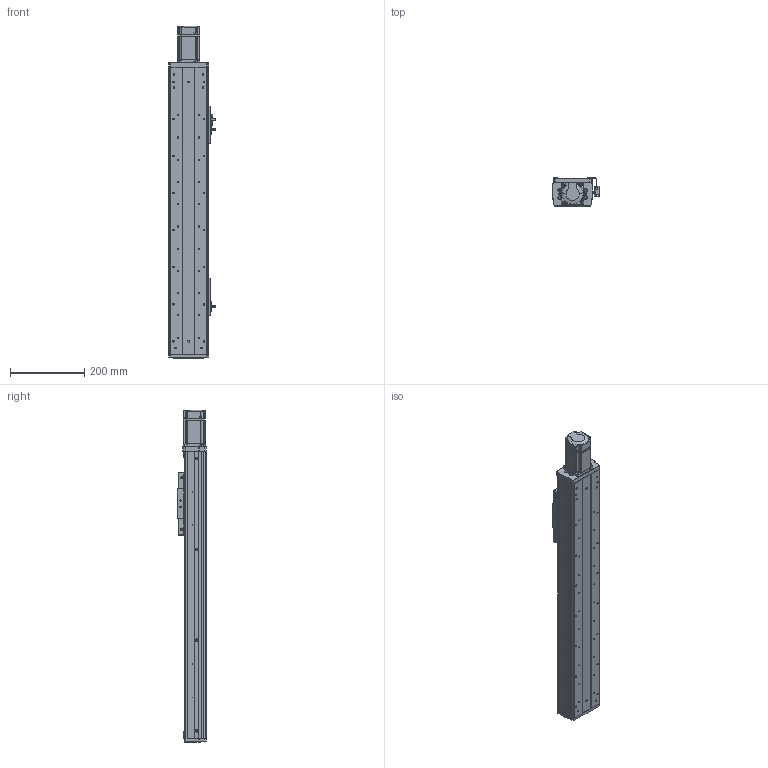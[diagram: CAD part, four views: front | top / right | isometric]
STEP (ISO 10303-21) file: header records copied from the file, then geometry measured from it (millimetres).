
FILE_DESCRIPTION (( 'STEP AP203' ), '1' );
FILE_NAME ('RY100FS-300-MK(15双轨).SLDASM_500.step', '2021-03-02T05:50:48', ( '盈信电脑' ), ( '东莞市道滘镇水果街19号' ), 'SwSTEP 2.0', 'SolidWorks 2012', '' );
FILE_SCHEMA (( 'CONFIG_CONTROL_DESIGN' ));
Length unit declared in the file: millimetre
Products named in the file (20): 滅袉蝶14-24; 滅袉蝶14-35; RY100FS-300-MK(15邧寢).SLDASM_500; 覜茼ん672; RY100FS-双轨螺母座(16丝杆）; RY100F-詩湍揤踡輸; RY100FS-15絳寢萇儂假蚾啣(200W PCD70 M4); RY100F-綴裔啣; 侂狟200W萇儂; RY80俋离覜茼え; 672嫖萇羲壽假蚾釱; 1; RY100F-詩湍幗謫粣; RY100F-詩湍揤踡謫; RY100FS-双轨铝滑块(上板）; RY100F-滅鳥裔啣; RY100FS-300-MK15邧寢祥凄詩湍_500; 棠沺沭; RY100FS-300-MK15絳寢倰第奻裔啣_500; RY100FS-300-MK15絳寢倰第菁釱_500
Assembly tree (27 placements, depth 3):
  RY100FS-300-MK(15邧寢).SLDASM_500
    RY100FS-300-MK15絳寢倰第菁釱_500
    RY100FS-300-MK15絳寢倰第奻裔啣_500  x2
    RY100FS-300-MK15邧寢祥凄詩湍_500
    RY100FS-双轨铝滑块(上板）
    RY100F-滅鳥裔啣
    棠沺沭  x2
    RY100F-詩湍幗謫粣
    RY100F-詩湍揤踡謫  x2
    侂狟200W萇儂
      1
    RY100F-綴裔啣
    672嫖萇羲壽假蚾釱  x2
    RY80俋离覜茼え  x2
    覜茼ん672  x3
    RY100F-詩湍揤踡輸  x2
    RY100FS-15絳寢萇儂假蚾啣(200W PCD70 M4)
    RY100FS-双轨螺母座(16丝杆）
    滅袉蝶14-24
    滅袉蝶14-35
Bounding box: 126.2 x 78.5 x 896 mm (x, y, z)
Volume: 2038579.1 mm3; surface area: 810796.5 mm2
Topology: 26 solids, 26 shells, 2004 faces, 5462 edges, 3550 vertices
Faces by surface type: plane 969, cylinder 874, cone 136, bspline 25
Entity records: 56916 total; most frequent: CARTESIAN_POINT 11701, DIRECTION 8987, ORIENTED_EDGE 8904, EDGE_CURVE 4452, AXIS2_PLACEMENT_3D 3154, VERTEX_POINT 2930, VECTOR 2679, LINE 2679
